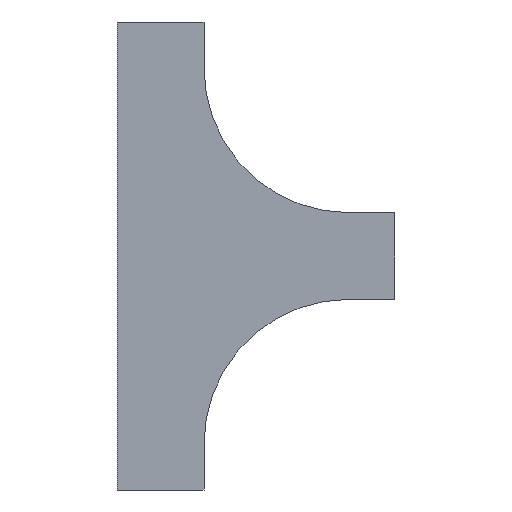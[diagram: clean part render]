
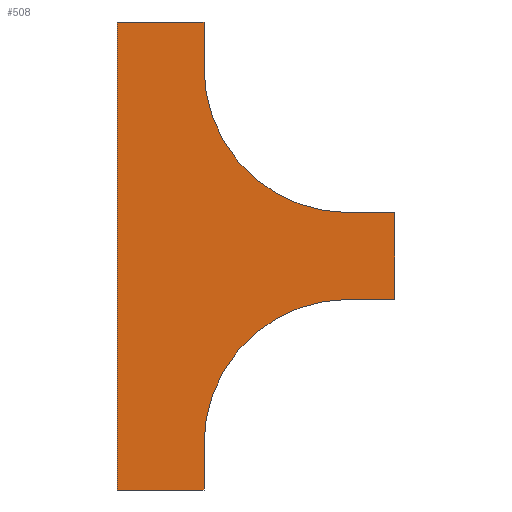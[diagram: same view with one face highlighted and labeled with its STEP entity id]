
A CAD part, front view. The second image highlights one B-rep face of the part: STEP entity #508.
In plain terms, the highlighted planar face has unit normal (0, -1, 0).
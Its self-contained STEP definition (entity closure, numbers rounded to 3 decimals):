
#16 = VERTEX_POINT ( 'NONE', #724 ) ;
#18 = LINE ( 'NONE', #1971, #419 ) ;
#21 = LINE ( 'NONE', #575, #428 ) ;
#31 = CARTESIAN_POINT ( 'NONE',  ( -200., 0., -365. ) ) ;
#72 = EDGE_CURVE ( 'NONE', #16, #327, #18, .T. ) ;
#125 = CARTESIAN_POINT ( 'NONE',  ( 0., 0., -200. ) ) ;
#143 = EDGE_CURVE ( 'NONE', #2262, #2285, #931, .T. ) ;
#165 = CARTESIAN_POINT ( 'NONE',  ( -200., 0., 40. ) ) ;
#259 = DIRECTION ( 'NONE',  ( -1., 0., 0. ) ) ;
#262 = DIRECTION ( 'NONE',  ( 0., -1., 0. ) ) ;
#285 = DIRECTION ( 'NONE',  ( 0., 0., 1. ) ) ;
#327 = VERTEX_POINT ( 'NONE', #475 ) ;
#386 = CIRCLE ( 'NONE', #1397, 125. ) ;
#397 = CARTESIAN_POINT ( 'NONE',  ( 0., 0., 0. ) ) ;
#410 = DIRECTION ( 'NONE',  ( -1., 0., 0. ) ) ;
#415 = CARTESIAN_POINT ( 'NONE',  ( -125., 0., -365. ) ) ;
#419 = VECTOR ( 'NONE', #513, 1000. ) ;
#428 = VECTOR ( 'NONE', #2348, 1000. ) ;
#475 = CARTESIAN_POINT ( 'NONE',  ( 40., 0., -125. ) ) ;
#508 = ADVANCED_FACE ( 'NONE', ( #1627 ), #731, .T. ) ;
#513 = DIRECTION ( 'NONE',  ( 1., 0., 0. ) ) ;
#543 = DIRECTION ( 'NONE',  ( 0., 0., -1. ) ) ;
#546 = LINE ( 'NONE', #415, #1548 ) ;
#575 = CARTESIAN_POINT ( 'NONE',  ( -125., 0., 40. ) ) ;
#604 = VECTOR ( 'NONE', #2295, 1000. ) ;
#621 = ORIENTED_EDGE ( 'NONE', *, *, #1516, .F. ) ;
#724 = CARTESIAN_POINT ( 'NONE',  ( 0., 0., -125. ) ) ;
#725 = CARTESIAN_POINT ( 'NONE',  ( -125., 0., -325. ) ) ;
#731 = PLANE ( 'NONE',  #1427 ) ;
#763 = DIRECTION ( 'NONE',  ( 0., 0., -1. ) ) ;
#823 = EDGE_CURVE ( 'NONE', #1762, #1228, #21, .T. ) ;
#853 = DIRECTION ( 'NONE',  ( 1., 0., 0. ) ) ;
#866 = LINE ( 'NONE', #1579, #604 ) ;
#882 = VERTEX_POINT ( 'NONE', #725 ) ;
#931 = LINE ( 'NONE', #31, #2277 ) ;
#953 = ORIENTED_EDGE ( 'NONE', *, *, #823, .F. ) ;
#973 = EDGE_CURVE ( 'NONE', #2285, #2116, #866, .T. ) ;
#990 = VECTOR ( 'NONE', #853, 1000. ) ;
#1015 = EDGE_CURVE ( 'NONE', #2116, #1762, #1037, .T. ) ;
#1037 = LINE ( 'NONE', #1374, #990 ) ;
#1042 = VERTEX_POINT ( 'NONE', #125 ) ;
#1106 = VECTOR ( 'NONE', #259, 1000. ) ;
#1137 = EDGE_LOOP ( 'NONE', ( #1218, #1994, #1926, #2290, #1708, #2053, #621, #1975, #2344, #953 ) ) ;
#1153 = LINE ( 'NONE', #1165, #1106 ) ;
#1165 = CARTESIAN_POINT ( 'NONE',  ( 0., 0., -200. ) ) ;
#1198 = EDGE_CURVE ( 'NONE', #1042, #882, #1586, .T. ) ;
#1215 = EDGE_CURVE ( 'NONE', #1228, #16, #386, .T. ) ;
#1218 = ORIENTED_EDGE ( 'NONE', *, *, #1015, .F. ) ;
#1228 = VERTEX_POINT ( 'NONE', #1323 ) ;
#1323 = CARTESIAN_POINT ( 'NONE',  ( -125., 0., 0. ) ) ;
#1335 = CARTESIAN_POINT ( 'NONE',  ( 0., 0., 0. ) ) ;
#1374 = CARTESIAN_POINT ( 'NONE',  ( -200., 0., 40. ) ) ;
#1397 = AXIS2_PLACEMENT_3D ( 'NONE', #1335, #2073, #1866 ) ;
#1427 = AXIS2_PLACEMENT_3D ( 'NONE', #397, #1822, #1641 ) ;
#1428 = VERTEX_POINT ( 'NONE', #1870 ) ;
#1516 = EDGE_CURVE ( 'NONE', #327, #1428, #2170, .T. ) ;
#1548 = VECTOR ( 'NONE', #763, 1000. ) ;
#1554 = EDGE_CURVE ( 'NONE', #1428, #1042, #1153, .T. ) ;
#1579 = CARTESIAN_POINT ( 'NONE',  ( -200., 0., -365. ) ) ;
#1586 = CIRCLE ( 'NONE', #1821, 125. ) ;
#1627 = FACE_OUTER_BOUND ( 'NONE', #1137, .T. ) ;
#1641 = DIRECTION ( 'NONE',  ( 0., 0., -1. ) ) ;
#1678 = CARTESIAN_POINT ( 'NONE',  ( -125., 0., -365. ) ) ;
#1708 = ORIENTED_EDGE ( 'NONE', *, *, #1198, .F. ) ;
#1713 = CARTESIAN_POINT ( 'NONE',  ( 0., 0., -325. ) ) ;
#1762 = VERTEX_POINT ( 'NONE', #2211 ) ;
#1782 = CARTESIAN_POINT ( 'NONE',  ( 40., 0., -125. ) ) ;
#1821 = AXIS2_PLACEMENT_3D ( 'NONE', #1713, #262, #285 ) ;
#1822 = DIRECTION ( 'NONE',  ( 0., -1., 0. ) ) ;
#1866 = DIRECTION ( 'NONE',  ( 0., 0., -1. ) ) ;
#1867 = EDGE_CURVE ( 'NONE', #882, #2262, #546, .T. ) ;
#1870 = CARTESIAN_POINT ( 'NONE',  ( 40., 0., -200. ) ) ;
#1926 = ORIENTED_EDGE ( 'NONE', *, *, #143, .F. ) ;
#1971 = CARTESIAN_POINT ( 'NONE',  ( 0., 0., -125. ) ) ;
#1975 = ORIENTED_EDGE ( 'NONE', *, *, #72, .F. ) ;
#1994 = ORIENTED_EDGE ( 'NONE', *, *, #973, .F. ) ;
#2053 = ORIENTED_EDGE ( 'NONE', *, *, #1554, .F. ) ;
#2073 = DIRECTION ( 'NONE',  ( 0., -1., 0. ) ) ;
#2116 = VERTEX_POINT ( 'NONE', #165 ) ;
#2125 = VECTOR ( 'NONE', #543, 1000. ) ;
#2170 = LINE ( 'NONE', #1782, #2125 ) ;
#2211 = CARTESIAN_POINT ( 'NONE',  ( -125., 0., 40. ) ) ;
#2252 = CARTESIAN_POINT ( 'NONE',  ( -200., 0., -365. ) ) ;
#2262 = VERTEX_POINT ( 'NONE', #1678 ) ;
#2277 = VECTOR ( 'NONE', #410, 1000. ) ;
#2285 = VERTEX_POINT ( 'NONE', #2252 ) ;
#2290 = ORIENTED_EDGE ( 'NONE', *, *, #1867, .F. ) ;
#2295 = DIRECTION ( 'NONE',  ( 0., 0., 1. ) ) ;
#2344 = ORIENTED_EDGE ( 'NONE', *, *, #1215, .F. ) ;
#2348 = DIRECTION ( 'NONE',  ( 0., 0., -1. ) ) ;
